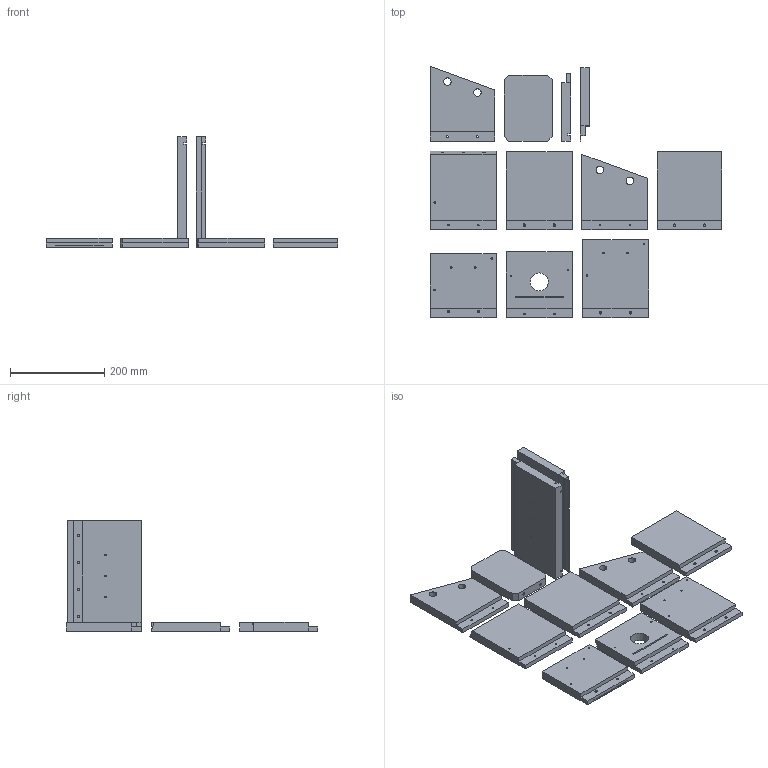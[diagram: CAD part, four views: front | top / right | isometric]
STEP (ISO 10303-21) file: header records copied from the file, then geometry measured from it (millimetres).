
FILE_DESCRIPTION(('Open CASCADE Model'),'2;1');
FILE_NAME('Open CASCADE Shape Model','2026-07-26T21:28:21',('Author'),( 'Open CASCADE'),'Open CASCADE STEP processor 7.9','Open CASCADE 7.9' ,'Unknown');
FILE_SCHEMA(('AUTOMOTIVE_DESIGN { 1 0 10303 214 1 1 1 1 }'));
Length unit declared in the file: millimetre
Products named in the file (12): Open CASCADE STEP translator 7.9 1; Open CASCADE STEP translator 7.9 1.1; Open CASCADE STEP translator 7.9 1.2; Open CASCADE STEP translator 7.9 1.3; Open CASCADE STEP translator 7.9 1.4; Open CASCADE STEP translator 7.9 1.5; Open CASCADE STEP translator 7.9 1.6; Open CASCADE STEP translator 7.9 1.7; Open CASCADE STEP translator 7.9 1.8; Open CASCADE STEP translator 7.9 1.9; Open CASCADE STEP translator 7.9 1.10; Open CASCADE STEP translator 7.9 1.11
Assembly tree (11 placements, depth 2):
  Open CASCADE STEP translator 7.9 1
    Open CASCADE STEP translator 7.9 1.1
    Open CASCADE STEP translator 7.9 1.2
    Open CASCADE STEP translator 7.9 1.3
    Open CASCADE STEP translator 7.9 1.4
    Open CASCADE STEP translator 7.9 1.5
    Open CASCADE STEP translator 7.9 1.6
    Open CASCADE STEP translator 7.9 1.7
    Open CASCADE STEP translator 7.9 1.8
    Open CASCADE STEP translator 7.9 1.9
    Open CASCADE STEP translator 7.9 1.10
    Open CASCADE STEP translator 7.9 1.11
Bounding box: 617.25 x 531.75 x 234.95 mm (x, y, z)
Volume: 4356359.5 mm3; surface area: 645546.5 mm2
Topology: 11 solids, 11 shells, 328 faces, 724 edges, 452 vertices
Faces by surface type: plane 228, cylinder 63, cone 29, bspline 8
Full cylindrical faces by diameter (mm): 3.4 x29, 4.2 x29, 15.875 x4, 38.1 x1
Entity records: 19039 total; most frequent: CARTESIAN_POINT 3633, DIRECTION 2915, LINE 1779, VECTOR 1779, ORIENTED_EDGE 1448, PCURVE 1448, DEFINITIONAL_REPRESENTATION 1448, EDGE_CURVE 724
